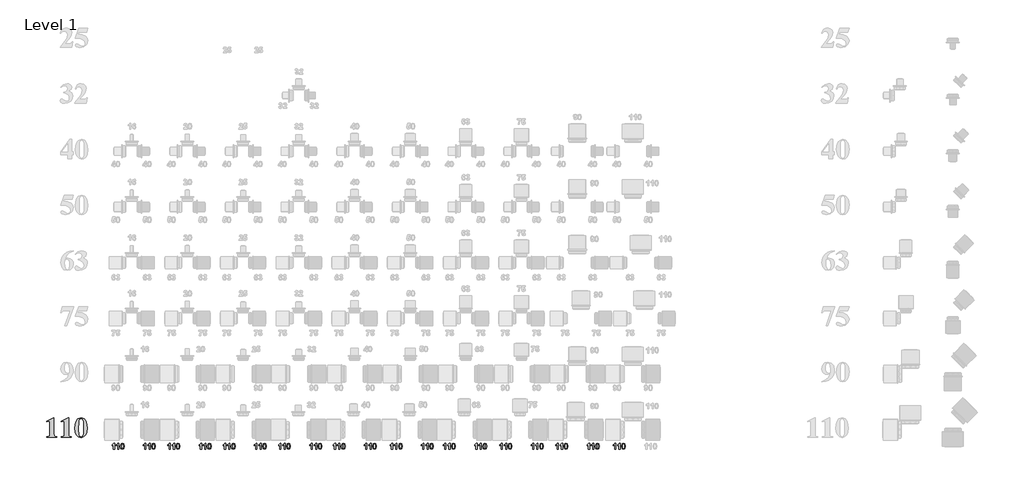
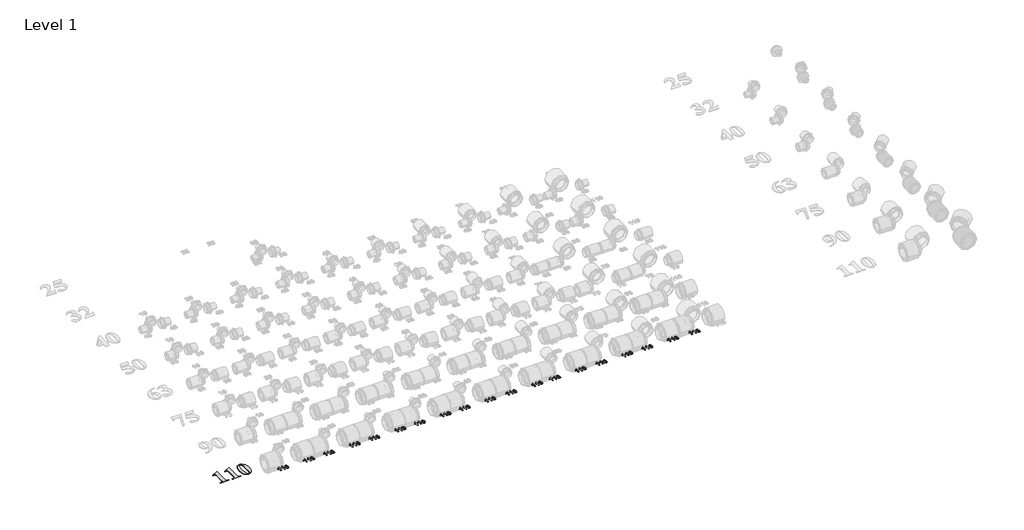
# One storey, part 17 of 57: 20 proxies.
"""IFC4 building model written with IfcOpenShell, lengths in millimetres."""

import ifcopenshell
import ifcopenshell.guid

model = None  # the IFC model being written
_history = None  # IfcOwnerHistory: only IFC2X3 demands one
_inside = {}  # id of a spatial element -> (the spatial element, [elements in it])
_under = {}  # id of a project, library or spatial element -> (it, [spatial elements below it])
_declared = {}  # id of a project -> (the project, [libraries it declares])
_typed = {}  # id of a type object -> (the type object, [elements of that type])
_made_of = {}  # id of a material, layer set ... -> (it, [elements and type objects made of it])


def new_model(schema):
    """Start an empty IFC model of exactly this schema.

    Asked for "IFC4X3", IfcOpenShell would pick the latest addendum, in which some entities
    have other attributes; the version numbers below select the first issue.
    IFC2X3 requires an IfcOwnerHistory on every rooted entity: one is made here for all.
    """
    global model, _history
    if schema == "IFC4X3":
        model = ifcopenshell.file(schema_version=(4, 3, 0, 0))
    else:
        model = ifcopenshell.file(schema=schema)
    _inside.clear()
    _under.clear()
    _declared.clear()
    _typed.clear()
    _made_of.clear()
    _history = None
    if model.schema == "IFC2X3":
        org = make("IfcOrganization", Name="unknown")
        user = make(
            "IfcPersonAndOrganization",
            ThePerson=make("IfcPerson", FamilyName="unknown"),
            TheOrganization=org,
        )
        app = make(
            "IfcApplication",
            ApplicationDeveloper=org,
            Version="unknown",
            ApplicationFullName="unknown",
            ApplicationIdentifier="unknown",
        )
        _history = make(
            "IfcOwnerHistory",
            OwningUser=user,
            OwningApplication=app,
            ChangeAction="ADDED",
            CreationDate=0,
        )
    return model


def make(cls, **values):
    """One entity of the class cls with the attributes given. An attribute that is None is left unset."""
    return model.create_entity(
        cls, **{name: value for name, value in values.items() if value is not None}
    )


def rooted(cls, **values):
    """An entity with a GlobalId (a new one), such as an element, a storey or a relation."""
    return make(cls, GlobalId=ifcopenshell.guid.new(), OwnerHistory=_history, **values)


def si_unit(unit_type, name, prefix=None):
    """IfcSIUnit, for example si_unit("LENGTHUNIT", "METRE", prefix="MILLI")."""
    return make("IfcSIUnit", UnitType=unit_type, Prefix=prefix, Name=name)


def assignment(units):
    """IfcUnitAssignment: the units of a project."""
    return None if units is None else make("IfcUnitAssignment", Units=units)


def point(xyz):
    """IfcCartesianPoint."""
    return None if xyz is None else make("IfcCartesianPoint", Coordinates=xyz)


def direction(xyz):
    """IfcDirection."""
    return None if xyz is None else make("IfcDirection", DirectionRatios=xyz)


def frame(location, z_axis=None, x_axis=None):
    """IfcAxis2Placement3D, a coordinate frame: its origin and axes. An axis left out is left unset."""
    return make(
        "IfcAxis2Placement3D",
        Location=point(location),
        Axis=direction(z_axis),
        RefDirection=direction(x_axis),
    )


def origin():
    """The frame at (0, 0, 0) with its axes left unset."""
    return frame((0.0, 0.0, 0.0))


def place(relative_to, where):
    """IfcLocalPlacement: puts the frame where relative to a parent placement (None: the world)."""
    return make(
        "IfcLocalPlacement", PlacementRelTo=relative_to, RelativePlacement=where
    )


def context(
    kind, dimensions, precision=None, world=None, true_north=None, identifier=None
):
    """IfcGeometricRepresentationContext, for example the 3D "Model" context."""
    return make(
        "IfcGeometricRepresentationContext",
        ContextIdentifier=identifier,
        ContextType=kind,
        CoordinateSpaceDimension=dimensions,
        Precision=precision,
        WorldCoordinateSystem=world,
        TrueNorth=true_north,
    )


def project(units=None, contexts=None):
    """IfcProject with its units and contexts."""
    return rooted(
        "IfcProject",
        Name="project",
        RepresentationContexts=contexts,
        UnitsInContext=assignment(units),
    )


def spatial(cls, under=None, at=None, **own):
    """A site, building, storey or space (cls), placed at a placement, below another one or the project."""
    s = rooted(cls, ObjectPlacement=at, **own)
    if under is not None:
        _under.setdefault(under.id(), (under, []))[1].append(s)
    return s


def polyline(points):
    """IfcPolyline through the points."""
    return make("IfcPolyline", Points=[point(p) for p in points])


def outline(outer, holes=None, kind="AREA"):
    """IfcArbitraryClosedProfileDef: a profile drawn as a closed curve; with holes, ...WithVoids."""
    if holes is None:
        return make("IfcArbitraryClosedProfileDef", ProfileType=kind, OuterCurve=outer)
    return make(
        "IfcArbitraryProfileDefWithVoids",
        ProfileType=kind,
        OuterCurve=outer,
        InnerCurves=holes,
    )


def extrude(swept, where, along, depth):
    """IfcExtrudedAreaSolid: the profile swept, set in the frame where, extruded along a direction by depth."""
    return make(
        "IfcExtrudedAreaSolid",
        SweptArea=swept,
        Position=where,
        ExtrudedDirection=direction(along),
        Depth=depth,
    )


def shape(context_of_items, identifier, shape_type, items):
    """IfcShapeRepresentation: the items that make up one representation, for example the "Body"."""
    return make(
        "IfcShapeRepresentation",
        ContextOfItems=context_of_items,
        RepresentationIdentifier=identifier,
        RepresentationType=shape_type,
        Items=items,
    )


def made_of(thing, what):
    """Note that an element or type object is made of a material, layer set ...; save() writes the relation."""
    if what is not None:
        _made_of.setdefault(what.id(), (what, []))[1].append(thing)
    return thing


def element(
    cls,
    number,
    at=None,
    inside=None,
    cuts=None,
    type_object=None,
    material=None,
    context=None,
    identifier="Body",
    shape_type=None,
    held_by="IfcProductDefinitionShape",
    body=None,
    shapes=None,
    **own,
):
    """One element of the class cls, such as IfcWall. Its Tag is "e" and its number.

    at: its placement. inside: the storey or other place that contains it. cuts: it is an
    opening in that element (IfcRelVoidsElement). A single representation is given by context,
    identifier, shape_type and body (its items); several are given by shapes. held_by: the class
    of the entity that holds the representations. save() writes the other relations.
    """
    e = rooted(cls, Tag="e%d" % number, ObjectPlacement=at, **own)
    if body is not None:
        shapes = [shape(context, identifier, shape_type, body)]
    if shapes is not None:
        e.Representation = make(held_by, Representations=shapes)
    if inside is not None:
        _inside.setdefault(inside.id(), (inside, []))[1].append(e)
    if cuts is not None:
        rooted(
            "IfcRelVoidsElement", RelatingBuildingElement=cuts, RelatedOpeningElement=e
        )
    if type_object is not None:
        _typed.setdefault(type_object.id(), (type_object, []))[1].append(e)
    return made_of(e, material)


def aggregate(whole, parts):
    """IfcRelAggregates: a whole, such as a stair, and the parts it consists of."""
    return rooted("IfcRelAggregates", RelatingObject=whole, RelatedObjects=parts)


def save(model, path):
    """Write the relations noted so far, then the file.

    IfcRelAggregates (storeys below a building ...), IfcRelContainedInSpatialStructure (elements
    in a storey), IfcRelDefinesByType, IfcRelAssociatesMaterial and IfcRelDeclares: one each for
    every whole, place, type object, material and project.
    """
    for whole, parts in _under.values():
        aggregate(whole, parts)
    for where, things in _inside.values():
        rooted(
            "IfcRelContainedInSpatialStructure",
            RelatedElements=things,
            RelatingStructure=where,
        )
    for kind, things in _typed.values():
        rooted("IfcRelDefinesByType", RelatedObjects=things, RelatingType=kind)
    for what, things in _made_of.values():
        rooted("IfcRelAssociatesMaterial", RelatedObjects=things, RelatingMaterial=what)
    for by, libraries in _declared.values():
        rooted("IfcRelDeclares", RelatingContext=by, RelatedDefinitions=libraries)
    model.write(path)


model = new_model("IFC4")

# Units and contexts
model_context = context("Model", 3, world=origin())
ifc_project = project(units=[si_unit("LENGTHUNIT", "METRE", prefix="MILLI")], contexts=[model_context])

# Site, building, storey
site = spatial("IfcSite", under=ifc_project)
building = spatial("IfcBuilding", under=site)
storey = spatial("IfcBuildingStorey", under=building, Name="Level 1", Elevation=27.3876384)

# Proxies
placement = place(None, origin())
element("IfcBuildingElementProxy", 1, Name="100mm Arial", ObjectType="100mm Arial", at=placement, inside=storey, context=model_context, shape_type="SweptSolid", body=[
    extrude(outline(polyline([(12847.0644959, 16010.8916255), (12847.0644959, 15927.1351635), (12847.9233268, 15915.4387044), (12851.5358695, 15911.2945045), (12860.3422944, 15909.6859006), (12862.7688325, 15909.6859006), (12862.7688325, 15906.196048), (12806.9311912, 15906.196048), (12806.9311912, 15909.6859006), (12809.7394319, 15909.6859006), (12819.4455844, 15911.1581821), (12823.3580363, 15915.1933242), (12824.3804541, 15927.1351635), (12824.3804541, 15979.4829522), (12823.7261067, 15988.1394225), (12821.2995686, 15991.1248823), (12817.2098976, 15992.3790481), (12808.2398859, 15989.95251), (12806.9311912, 15993.4423626), (12844.5834288, 16010.8916255), (12847.0644959, 16010.8916255)])), frame((0.0, 0.0, 27.3876384), z_axis=(0.0, 0.0, 1.0), x_axis=(1.0, 0.0, 0.0)), (0.0, 0.0, 1.0), 2.0),
    extrude(outline(polyline([(12925.586179, 16010.8916255), (12925.586179, 15927.1351635), (12926.4450099, 15915.4387044), (12930.0575526, 15911.2945045), (12938.8639775, 15909.6859006), (12941.2905157, 15909.6859006), (12941.2905157, 15906.196048), (12885.4528743, 15906.196048), (12885.4528743, 15909.6859006), (12888.2611151, 15909.6859006), (12897.9672676, 15911.1581821), (12901.8797195, 15915.1933242), (12902.9021372, 15927.1351635), (12902.9021372, 15979.4829522), (12902.2477899, 15988.1394225), (12899.8212517, 15991.1248823), (12895.7315807, 15992.3790481), (12886.761569, 15989.95251), (12885.4528743, 15993.4423626), (12923.105112, 16010.8916255), (12925.586179, 16010.8916255)])), frame((0.0, 0.0, 27.3876384), z_axis=(0.0, 0.0, 1.0), x_axis=(1.0, 0.0, 0.0)), (0.0, 0.0, 1.0), 2.0),
    extrude(outline(polyline([(13026.791904, 15957.6713736), (13022.3477948, 15929.0982056), (13015.2317673, 15915.7658781), (13005.0893832, 15907.5047427), (12992.7385768, 15904.4511217), (12978.9563855, 15908.213619), (12968.0642284, 15919.0103504), (12962.0933088, 15932.6425871), (12958.7397786, 15956.4717368), (12963.5655903, 15987.0624758), (12968.554989, 15997.2491647), (12975.6164876, 16004.7434868), (12992.7385768, 16010.8916255), (13009.8742983, 16004.8252802), (13021.5843896, 15988.5074929), (13026.791904, 15957.6713736)]), holes=[polyline([(13004.1078622, 15957.6713736), (13003.753424, 15989.0255179), (12999.6364885, 16003.2303085), (12992.6840478, 16005.6568466), (12986.8494506, 16003.8301269), (12982.5416638, 15994.505677), (12981.4238204, 15947.8561632), (12983.1414822, 15918.6831767), (12986.8358183, 15911.498988), (12993.2020728, 15909.6859006), (12999.6364885, 15912.1124387), (13003.753424, 15925.1721214), (13004.1078622, 15957.6713736)])]), frame((0.0, 0.0, 27.3876384), z_axis=(0.0, 0.0, 1.0), x_axis=(1.0, 0.0, 0.0)), (0.0, 0.0, 1.0), 2.0),
])
element("IfcBuildingElementProxy", 2, Name="30mm Arial", ObjectType="30mm Arial", at=placement, inside=storey, context=model_context, shape_type="SweptSolid", body=[
    extrude(outline(polyline([(13173.1703597, 15842.5788539), (13167.340306, 15842.5788539), (13167.340306, 15864.4567378), (13160.0527389, 15859.5831773), (13160.0527389, 15865.413231), (13164.9187082, 15868.2713237), (13168.5245357, 15873.1866359), (13173.1703597, 15873.1866359), (13173.1703597, 15842.5788539)])), frame((0.0, 0.0, 27.3876384), z_axis=(0.0, 0.0, 1.0), x_axis=(1.0, 0.0, 0.0)), (0.0, 0.0, 1.0), 2.0),
    extrude(outline(polyline([(13196.4905746, 15842.5788539), (13190.6605209, 15842.5788539), (13190.6605209, 15864.4567378), (13183.3729537, 15859.5831773), (13183.3729537, 15865.413231), (13188.238923, 15868.2713237), (13191.8447505, 15873.1866359), (13196.4905746, 15873.1866359), (13196.4905746, 15842.5788539)])), frame((0.0, 0.0, 27.3876384), z_axis=(0.0, 0.0, 1.0), x_axis=(1.0, 0.0, 0.0)), (0.0, 0.0, 1.0), 2.0),
    extrude(outline(polyline([(13214.9524113, 15873.1866359), (13221.7465495, 15870.0286902), (13224.6691675, 15857.6322348), (13221.731367, 15845.2054146), (13214.9524113, 15842.0930161), (13207.9115587, 15845.5090632), (13205.2356552, 15857.6929645), (13208.1734557, 15870.0742375), (13214.9524113, 15873.1866359)]), holes=[polyline([(13214.9524113, 15867.84242), (13213.0090601, 15867.2009623), (13211.6881886, 15864.8970283), (13211.0657089, 15857.6322348), (13211.6198676, 15850.6141558), (13213.0204469, 15848.0710985), (13214.9524113, 15847.437232), (13216.8957626, 15848.0786898), (13218.2166341, 15850.3826237), (13218.8391138, 15857.6322348), (13218.2849551, 15864.6465182), (13216.8843758, 15867.2009623), (13214.9524113, 15867.84242)])]), frame((0.0, 0.0, 27.3876384), z_axis=(0.0, 0.0, 1.0), x_axis=(1.0, 0.0, 0.0)), (0.0, 0.0, 1.0), 2.0),
])
element("IfcBuildingElementProxy", 3, Name="30mm Arial", ObjectType="30mm Arial", at=placement, inside=storey, context=model_context, shape_type="SweptSolid", body=[
    extrude(outline(polyline([(13341.9203597, 15842.5788539), (13336.090306, 15842.5788539), (13336.090306, 15864.4567378), (13328.8027389, 15859.5831773), (13328.8027389, 15865.413231), (13333.6687082, 15868.2713237), (13337.2745357, 15873.1866359), (13341.9203597, 15873.1866359), (13341.9203597, 15842.5788539)])), frame((0.0, 0.0, 27.3876384), z_axis=(0.0, 0.0, 1.0), x_axis=(1.0, 0.0, 0.0)), (0.0, 0.0, 1.0), 2.0),
    extrude(outline(polyline([(13365.2405746, 15842.5788539), (13359.4105209, 15842.5788539), (13359.4105209, 15864.4567378), (13352.1229537, 15859.5831773), (13352.1229537, 15865.413231), (13356.988923, 15868.2713237), (13360.5947505, 15873.1866359), (13365.2405746, 15873.1866359), (13365.2405746, 15842.5788539)])), frame((0.0, 0.0, 27.3876384), z_axis=(0.0, 0.0, 1.0), x_axis=(1.0, 0.0, 0.0)), (0.0, 0.0, 1.0), 2.0),
    extrude(outline(polyline([(13383.7024113, 15873.1866359), (13390.4965495, 15870.0286902), (13393.4191675, 15857.6322348), (13390.481367, 15845.2054146), (13383.7024113, 15842.0930161), (13376.6615587, 15845.5090632), (13373.9856552, 15857.6929645), (13376.9234557, 15870.0742375), (13383.7024113, 15873.1866359)]), holes=[polyline([(13383.7024113, 15867.84242), (13381.7590601, 15867.2009623), (13380.4381886, 15864.8970283), (13379.8157089, 15857.6322348), (13380.3698676, 15850.6141558), (13381.7704469, 15848.0710985), (13383.7024113, 15847.437232), (13385.6457626, 15848.0786898), (13386.9666341, 15850.3826237), (13387.5891138, 15857.6322348), (13387.0349551, 15864.6465182), (13385.6343758, 15867.2009623), (13383.7024113, 15867.84242)])]), frame((0.0, 0.0, 27.3876384), z_axis=(0.0, 0.0, 1.0), x_axis=(1.0, 0.0, 0.0)), (0.0, 0.0, 1.0), 2.0),
])
element("IfcBuildingElementProxy", 4, Name="30mm Arial", ObjectType="30mm Arial", at=placement, inside=storey, context=model_context, shape_type="SweptSolid", body=[
    extrude(outline(polyline([(13473.1703597, 15842.5788539), (13467.340306, 15842.5788539), (13467.340306, 15864.4567378), (13460.0527389, 15859.5831773), (13460.0527389, 15865.413231), (13464.9187082, 15868.2713237), (13468.5245357, 15873.1866359), (13473.1703597, 15873.1866359), (13473.1703597, 15842.5788539)])), frame((0.0, 0.0, 27.3876384), z_axis=(0.0, 0.0, 1.0), x_axis=(1.0, 0.0, 0.0)), (0.0, 0.0, 1.0), 2.0),
    extrude(outline(polyline([(13496.4905746, 15842.5788539), (13490.6605209, 15842.5788539), (13490.6605209, 15864.4567378), (13483.3729537, 15859.5831773), (13483.3729537, 15865.413231), (13488.238923, 15868.2713237), (13491.8447505, 15873.1866359), (13496.4905746, 15873.1866359), (13496.4905746, 15842.5788539)])), frame((0.0, 0.0, 27.3876384), z_axis=(0.0, 0.0, 1.0), x_axis=(1.0, 0.0, 0.0)), (0.0, 0.0, 1.0), 2.0),
    extrude(outline(polyline([(13514.9524113, 15873.1866359), (13521.7465495, 15870.0286902), (13524.6691675, 15857.6322348), (13521.731367, 15845.2054146), (13514.9524113, 15842.0930161), (13507.9115587, 15845.5090632), (13505.2356552, 15857.6929645), (13508.1734557, 15870.0742375), (13514.9524113, 15873.1866359)]), holes=[polyline([(13514.9524113, 15867.84242), (13513.0090601, 15867.2009623), (13511.6881886, 15864.8970283), (13511.0657089, 15857.6322348), (13511.6198676, 15850.6141558), (13513.0204469, 15848.0710985), (13514.9524113, 15847.437232), (13516.8957626, 15848.0786898), (13518.2166341, 15850.3826237), (13518.8391138, 15857.6322348), (13518.2849551, 15864.6465182), (13516.8843758, 15867.2009623), (13514.9524113, 15867.84242)])]), frame((0.0, 0.0, 27.3876384), z_axis=(0.0, 0.0, 1.0), x_axis=(1.0, 0.0, 0.0)), (0.0, 0.0, 1.0), 2.0),
])
element("IfcBuildingElementProxy", 5, Name="30mm Arial", ObjectType="30mm Arial", at=placement, inside=storey, context=model_context, shape_type="SweptSolid", body=[
    extrude(outline(polyline([(13641.9203597, 15842.5788539), (13636.090306, 15842.5788539), (13636.090306, 15864.4567378), (13628.8027389, 15859.5831773), (13628.8027389, 15865.413231), (13633.6687082, 15868.2713237), (13637.2745357, 15873.1866359), (13641.9203597, 15873.1866359), (13641.9203597, 15842.5788539)])), frame((0.0, 0.0, 27.3876384), z_axis=(0.0, 0.0, 1.0), x_axis=(1.0, 0.0, 0.0)), (0.0, 0.0, 1.0), 2.0),
    extrude(outline(polyline([(13665.2405746, 15842.5788539), (13659.4105209, 15842.5788539), (13659.4105209, 15864.4567378), (13652.1229537, 15859.5831773), (13652.1229537, 15865.413231), (13656.988923, 15868.2713237), (13660.5947505, 15873.1866359), (13665.2405746, 15873.1866359), (13665.2405746, 15842.5788539)])), frame((0.0, 0.0, 27.3876384), z_axis=(0.0, 0.0, 1.0), x_axis=(1.0, 0.0, 0.0)), (0.0, 0.0, 1.0), 2.0),
    extrude(outline(polyline([(13683.7024113, 15873.1866359), (13690.4965495, 15870.0286902), (13693.4191675, 15857.6322348), (13690.481367, 15845.2054146), (13683.7024113, 15842.0930161), (13676.6615587, 15845.5090632), (13673.9856552, 15857.6929645), (13676.9234557, 15870.0742375), (13683.7024113, 15873.1866359)]), holes=[polyline([(13683.7024113, 15867.84242), (13681.7590601, 15867.2009623), (13680.4381886, 15864.8970283), (13679.8157089, 15857.6322348), (13680.3698676, 15850.6141558), (13681.7704469, 15848.0710985), (13683.7024113, 15847.437232), (13685.6457626, 15848.0786898), (13686.9666341, 15850.3826237), (13687.5891138, 15857.6322348), (13687.0349551, 15864.6465182), (13685.6343758, 15867.2009623), (13683.7024113, 15867.84242)])]), frame((0.0, 0.0, 27.3876384), z_axis=(0.0, 0.0, 1.0), x_axis=(1.0, 0.0, 0.0)), (0.0, 0.0, 1.0), 2.0),
])
element("IfcBuildingElementProxy", 6, Name="30mm Arial", ObjectType="30mm Arial", at=placement, inside=storey, context=model_context, shape_type="SweptSolid", body=[
    extrude(outline(polyline([(13771.1703597, 15842.5788539), (13765.340306, 15842.5788539), (13765.340306, 15864.4567378), (13758.0527389, 15859.5831773), (13758.0527389, 15865.413231), (13762.9187082, 15868.2713237), (13766.5245357, 15873.1866359), (13771.1703597, 15873.1866359), (13771.1703597, 15842.5788539)])), frame((0.0, 0.0, 27.3876384), z_axis=(0.0, 0.0, 1.0), x_axis=(1.0, 0.0, 0.0)), (0.0, 0.0, 1.0), 2.0),
    extrude(outline(polyline([(13794.4905746, 15842.5788539), (13788.6605209, 15842.5788539), (13788.6605209, 15864.4567378), (13781.3729537, 15859.5831773), (13781.3729537, 15865.413231), (13786.238923, 15868.2713237), (13789.8447505, 15873.1866359), (13794.4905746, 15873.1866359), (13794.4905746, 15842.5788539)])), frame((0.0, 0.0, 27.3876384), z_axis=(0.0, 0.0, 1.0), x_axis=(1.0, 0.0, 0.0)), (0.0, 0.0, 1.0), 2.0),
    extrude(outline(polyline([(13812.9524113, 15873.1866359), (13819.7465495, 15870.0286902), (13822.6691675, 15857.6322348), (13819.731367, 15845.2054146), (13812.9524113, 15842.0930161), (13805.9115587, 15845.5090632), (13803.2356552, 15857.6929645), (13806.1734557, 15870.0742375), (13812.9524113, 15873.1866359)]), holes=[polyline([(13812.9524113, 15867.84242), (13811.0090601, 15867.2009623), (13809.6881886, 15864.8970283), (13809.0657089, 15857.6322348), (13809.6198676, 15850.6141558), (13811.0204469, 15848.0710985), (13812.9524113, 15847.437232), (13814.8957626, 15848.0786898), (13816.2166341, 15850.3826237), (13816.8391138, 15857.6322348), (13816.2849551, 15864.6465182), (13814.8843758, 15867.2009623), (13812.9524113, 15867.84242)])]), frame((0.0, 0.0, 27.3876384), z_axis=(0.0, 0.0, 1.0), x_axis=(1.0, 0.0, 0.0)), (0.0, 0.0, 1.0), 2.0),
])
element("IfcBuildingElementProxy", 7, Name="30mm Arial", ObjectType="30mm Arial", at=placement, inside=storey, context=model_context, shape_type="SweptSolid", body=[
    extrude(outline(polyline([(13939.9203597, 15842.5788539), (13934.090306, 15842.5788539), (13934.090306, 15864.4567378), (13926.8027389, 15859.5831773), (13926.8027389, 15865.413231), (13931.6687082, 15868.2713237), (13935.2745357, 15873.1866359), (13939.9203597, 15873.1866359), (13939.9203597, 15842.5788539)])), frame((0.0, 0.0, 27.3876384), z_axis=(0.0, 0.0, 1.0), x_axis=(1.0, 0.0, 0.0)), (0.0, 0.0, 1.0), 2.0),
    extrude(outline(polyline([(13963.2405746, 15842.5788539), (13957.4105209, 15842.5788539), (13957.4105209, 15864.4567378), (13950.1229537, 15859.5831773), (13950.1229537, 15865.413231), (13954.988923, 15868.2713237), (13958.5947505, 15873.1866359), (13963.2405746, 15873.1866359), (13963.2405746, 15842.5788539)])), frame((0.0, 0.0, 27.3876384), z_axis=(0.0, 0.0, 1.0), x_axis=(1.0, 0.0, 0.0)), (0.0, 0.0, 1.0), 2.0),
    extrude(outline(polyline([(13981.7024113, 15873.1866359), (13988.4965495, 15870.0286902), (13991.4191675, 15857.6322348), (13988.481367, 15845.2054146), (13981.7024113, 15842.0930161), (13974.6615587, 15845.5090632), (13971.9856552, 15857.6929645), (13974.9234557, 15870.0742375), (13981.7024113, 15873.1866359)]), holes=[polyline([(13981.7024113, 15867.84242), (13979.7590601, 15867.2009623), (13978.4381886, 15864.8970283), (13977.8157089, 15857.6322348), (13978.3698676, 15850.6141558), (13979.7704469, 15848.0710985), (13981.7024113, 15847.437232), (13983.6457626, 15848.0786898), (13984.9666341, 15850.3826237), (13985.5891138, 15857.6322348), (13985.0349551, 15864.6465182), (13983.6343758, 15867.2009623), (13981.7024113, 15867.84242)])]), frame((0.0, 0.0, 27.3876384), z_axis=(0.0, 0.0, 1.0), x_axis=(1.0, 0.0, 0.0)), (0.0, 0.0, 1.0), 2.0),
])
element("IfcBuildingElementProxy", 8, Name="30mm Arial", ObjectType="30mm Arial", at=placement, inside=storey, context=model_context, shape_type="SweptSolid", body=[
    extrude(outline(polyline([(15563.1703597, 15842.5788539), (15557.340306, 15842.5788539), (15557.340306, 15864.4567378), (15550.0527389, 15859.5831773), (15550.0527389, 15865.413231), (15554.9187082, 15868.2713237), (15558.5245357, 15873.1866359), (15563.1703597, 15873.1866359), (15563.1703597, 15842.5788539)])), frame((0.0, 0.0, 27.3876384), z_axis=(0.0, 0.0, 1.0), x_axis=(1.0, 0.0, 0.0)), (0.0, 0.0, 1.0), 2.0),
    extrude(outline(polyline([(15586.4905746, 15842.5788539), (15580.6605209, 15842.5788539), (15580.6605209, 15864.4567378), (15573.3729537, 15859.5831773), (15573.3729537, 15865.413231), (15578.238923, 15868.2713237), (15581.8447505, 15873.1866359), (15586.4905746, 15873.1866359), (15586.4905746, 15842.5788539)])), frame((0.0, 0.0, 27.3876384), z_axis=(0.0, 0.0, 1.0), x_axis=(1.0, 0.0, 0.0)), (0.0, 0.0, 1.0), 2.0),
    extrude(outline(polyline([(15604.9524113, 15873.1866359), (15611.7465495, 15870.0286902), (15614.6691675, 15857.6322348), (15611.731367, 15845.2054146), (15604.9524113, 15842.0930161), (15597.9115587, 15845.5090632), (15595.2356552, 15857.6929645), (15598.1734557, 15870.0742375), (15604.9524113, 15873.1866359)]), holes=[polyline([(15604.9524113, 15867.84242), (15603.0090601, 15867.2009623), (15601.6881886, 15864.8970283), (15601.0657089, 15857.6322348), (15601.6198676, 15850.6141558), (15603.0204469, 15848.0710985), (15604.9524113, 15847.437232), (15606.8957626, 15848.0786898), (15608.2166341, 15850.3826237), (15608.8391138, 15857.6322348), (15608.2849551, 15864.6465182), (15606.8843758, 15867.2009623), (15604.9524113, 15867.84242)])]), frame((0.0, 0.0, 27.3876384), z_axis=(0.0, 0.0, 1.0), x_axis=(1.0, 0.0, 0.0)), (0.0, 0.0, 1.0), 2.0),
])
element("IfcBuildingElementProxy", 9, Name="30mm Arial", ObjectType="30mm Arial", at=placement, inside=storey, context=model_context, shape_type="SweptSolid", body=[
    extrude(outline(polyline([(15731.9203597, 15842.5788539), (15726.090306, 15842.5788539), (15726.090306, 15864.4567378), (15718.8027389, 15859.5831773), (15718.8027389, 15865.413231), (15723.6687082, 15868.2713237), (15727.2745357, 15873.1866359), (15731.9203597, 15873.1866359), (15731.9203597, 15842.5788539)])), frame((0.0, 0.0, 27.3876384), z_axis=(0.0, 0.0, 1.0), x_axis=(1.0, 0.0, 0.0)), (0.0, 0.0, 1.0), 2.0),
    extrude(outline(polyline([(15755.2405746, 15842.5788539), (15749.4105209, 15842.5788539), (15749.4105209, 15864.4567378), (15742.1229537, 15859.5831773), (15742.1229537, 15865.413231), (15746.988923, 15868.2713237), (15750.5947505, 15873.1866359), (15755.2405746, 15873.1866359), (15755.2405746, 15842.5788539)])), frame((0.0, 0.0, 27.3876384), z_axis=(0.0, 0.0, 1.0), x_axis=(1.0, 0.0, 0.0)), (0.0, 0.0, 1.0), 2.0),
    extrude(outline(polyline([(15773.7024113, 15873.1866359), (15780.4965495, 15870.0286902), (15783.4191675, 15857.6322348), (15780.481367, 15845.2054146), (15773.7024113, 15842.0930161), (15766.6615587, 15845.5090632), (15763.9856552, 15857.6929645), (15766.9234557, 15870.0742375), (15773.7024113, 15873.1866359)]), holes=[polyline([(15773.7024113, 15867.84242), (15771.7590601, 15867.2009623), (15770.4381886, 15864.8970283), (15769.8157089, 15857.6322348), (15770.3698676, 15850.6141558), (15771.7704469, 15848.0710985), (15773.7024113, 15847.437232), (15775.6457626, 15848.0786898), (15776.9666341, 15850.3826237), (15777.5891138, 15857.6322348), (15777.0349551, 15864.6465182), (15775.6343758, 15867.2009623), (15773.7024113, 15867.84242)])]), frame((0.0, 0.0, 27.3876384), z_axis=(0.0, 0.0, 1.0), x_axis=(1.0, 0.0, 0.0)), (0.0, 0.0, 1.0), 2.0),
])
element("IfcBuildingElementProxy", 10, Name="30mm Arial", ObjectType="30mm Arial", at=placement, inside=storey, context=model_context, shape_type="SweptSolid", body=[
    extrude(outline(polyline([(15873.1703597, 15842.5788539), (15867.340306, 15842.5788539), (15867.340306, 15864.4567378), (15860.0527389, 15859.5831773), (15860.0527389, 15865.413231), (15864.9187082, 15868.2713237), (15868.5245357, 15873.1866359), (15873.1703597, 15873.1866359), (15873.1703597, 15842.5788539)])), frame((0.0, 0.0, 27.3876384), z_axis=(0.0, 0.0, 1.0), x_axis=(1.0, 0.0, 0.0)), (0.0, 0.0, 1.0), 2.0),
    extrude(outline(polyline([(15896.4905746, 15842.5788539), (15890.6605209, 15842.5788539), (15890.6605209, 15864.4567378), (15883.3729537, 15859.5831773), (15883.3729537, 15865.413231), (15888.238923, 15868.2713237), (15891.8447505, 15873.1866359), (15896.4905746, 15873.1866359), (15896.4905746, 15842.5788539)])), frame((0.0, 0.0, 27.3876384), z_axis=(0.0, 0.0, 1.0), x_axis=(1.0, 0.0, 0.0)), (0.0, 0.0, 1.0), 2.0),
    extrude(outline(polyline([(15914.9524113, 15873.1866359), (15921.7465495, 15870.0286902), (15924.6691675, 15857.6322348), (15921.731367, 15845.2054146), (15914.9524113, 15842.0930161), (15907.9115587, 15845.5090632), (15905.2356552, 15857.6929645), (15908.1734557, 15870.0742375), (15914.9524113, 15873.1866359)]), holes=[polyline([(15914.9524113, 15867.84242), (15913.0090601, 15867.2009623), (15911.6881886, 15864.8970283), (15911.0657089, 15857.6322348), (15911.6198676, 15850.6141558), (15913.0204469, 15848.0710985), (15914.9524113, 15847.437232), (15916.8957626, 15848.0786898), (15918.2166341, 15850.3826237), (15918.8391138, 15857.6322348), (15918.2849551, 15864.6465182), (15916.8843758, 15867.2009623), (15914.9524113, 15867.84242)])]), frame((0.0, 0.0, 27.3876384), z_axis=(0.0, 0.0, 1.0), x_axis=(1.0, 0.0, 0.0)), (0.0, 0.0, 1.0), 2.0),
])
element("IfcBuildingElementProxy", 11, Name="30mm Arial", ObjectType="30mm Arial", at=placement, inside=storey, context=model_context, shape_type="SweptSolid", body=[
    extrude(outline(polyline([(14069.6017169, 15842.5788539), (14063.7716631, 15842.5788539), (14063.7716631, 15864.4567378), (14056.484096, 15859.5831773), (14056.484096, 15865.413231), (14061.3500653, 15868.2713237), (14064.9558928, 15873.1866359), (14069.6017169, 15873.1866359), (14069.6017169, 15842.5788539)])), frame((0.0, 0.0, 27.3876384), z_axis=(0.0, 0.0, 1.0), x_axis=(1.0, 0.0, 0.0)), (0.0, 0.0, 1.0), 2.0),
    extrude(outline(polyline([(14092.9219317, 15842.5788539), (14087.091878, 15842.5788539), (14087.091878, 15864.4567378), (14079.8043109, 15859.5831773), (14079.8043109, 15865.413231), (14084.6702802, 15868.2713237), (14088.2761077, 15873.1866359), (14092.9219317, 15873.1866359), (14092.9219317, 15842.5788539)])), frame((0.0, 0.0, 27.3876384), z_axis=(0.0, 0.0, 1.0), x_axis=(1.0, 0.0, 0.0)), (0.0, 0.0, 1.0), 2.0),
    extrude(outline(polyline([(14111.3837685, 15873.1866359), (14118.1779066, 15870.0286902), (14121.1005247, 15857.6322348), (14118.1627242, 15845.2054146), (14111.3837685, 15842.0930161), (14104.3429158, 15845.5090632), (14101.6670123, 15857.6929645), (14104.6048128, 15870.0742375), (14111.3837685, 15873.1866359)]), holes=[polyline([(14111.3837685, 15867.84242), (14109.4404172, 15867.2009623), (14108.1195457, 15864.8970283), (14107.497066, 15857.6322348), (14108.0512248, 15850.6141558), (14109.4518041, 15848.0710985), (14111.3837685, 15847.437232), (14113.3271197, 15848.0786898), (14114.6479913, 15850.3826237), (14115.270471, 15857.6322348), (14114.7163122, 15864.6465182), (14113.3157329, 15867.2009623), (14111.3837685, 15867.84242)])]), frame((0.0, 0.0, 27.3876384), z_axis=(0.0, 0.0, 1.0), x_axis=(1.0, 0.0, 0.0)), (0.0, 0.0, 1.0), 2.0),
])
element("IfcBuildingElementProxy", 12, Name="30mm Arial", ObjectType="30mm Arial", at=placement, inside=storey, context=model_context, shape_type="SweptSolid", body=[
    extrude(outline(polyline([(14238.3517169, 15842.5788539), (14232.5216631, 15842.5788539), (14232.5216631, 15864.4567378), (14225.234096, 15859.5831773), (14225.234096, 15865.413231), (14230.1000653, 15868.2713237), (14233.7058928, 15873.1866359), (14238.3517169, 15873.1866359), (14238.3517169, 15842.5788539)])), frame((0.0, 0.0, 27.3876384), z_axis=(0.0, 0.0, 1.0), x_axis=(1.0, 0.0, 0.0)), (0.0, 0.0, 1.0), 2.0),
    extrude(outline(polyline([(14261.6719317, 15842.5788539), (14255.841878, 15842.5788539), (14255.841878, 15864.4567378), (14248.5543109, 15859.5831773), (14248.5543109, 15865.413231), (14253.4202802, 15868.2713237), (14257.0261077, 15873.1866359), (14261.6719317, 15873.1866359), (14261.6719317, 15842.5788539)])), frame((0.0, 0.0, 27.3876384), z_axis=(0.0, 0.0, 1.0), x_axis=(1.0, 0.0, 0.0)), (0.0, 0.0, 1.0), 2.0),
    extrude(outline(polyline([(14280.1337685, 15873.1866359), (14286.9279066, 15870.0286902), (14289.8505247, 15857.6322348), (14286.9127242, 15845.2054146), (14280.1337685, 15842.0930161), (14273.0929158, 15845.5090632), (14270.4170123, 15857.6929645), (14273.3548128, 15870.0742375), (14280.1337685, 15873.1866359)]), holes=[polyline([(14280.1337685, 15867.84242), (14278.1904172, 15867.2009623), (14276.8695457, 15864.8970283), (14276.247066, 15857.6322348), (14276.8012248, 15850.6141558), (14278.2018041, 15848.0710985), (14280.1337685, 15847.437232), (14282.0771197, 15848.0786898), (14283.3979913, 15850.3826237), (14284.020471, 15857.6322348), (14283.4663122, 15864.6465182), (14282.0657329, 15867.2009623), (14280.1337685, 15867.84242)])]), frame((0.0, 0.0, 27.3876384), z_axis=(0.0, 0.0, 1.0), x_axis=(1.0, 0.0, 0.0)), (0.0, 0.0, 1.0), 2.0),
])
element("IfcBuildingElementProxy", 13, Name="30mm Arial", ObjectType="30mm Arial", at=placement, inside=storey, context=model_context, shape_type="SweptSolid", body=[
    extrude(outline(polyline([(14363.5788746, 15842.5788539), (14357.7488209, 15842.5788539), (14357.7488209, 15864.4567378), (14350.4612538, 15859.5831773), (14350.4612538, 15865.413231), (14355.3272231, 15868.2713237), (14358.9330506, 15873.1866359), (14363.5788746, 15873.1866359), (14363.5788746, 15842.5788539)])), frame((0.0, 0.0, 27.3876384), z_axis=(0.0, 0.0, 1.0), x_axis=(1.0, 0.0, 0.0)), (0.0, 0.0, 1.0), 2.0),
    extrude(outline(polyline([(14386.8990895, 15842.5788539), (14381.0690358, 15842.5788539), (14381.0690358, 15864.4567378), (14373.7814686, 15859.5831773), (14373.7814686, 15865.413231), (14378.6474379, 15868.2713237), (14382.2532654, 15873.1866359), (14386.8990895, 15873.1866359), (14386.8990895, 15842.5788539)])), frame((0.0, 0.0, 27.3876384), z_axis=(0.0, 0.0, 1.0), x_axis=(1.0, 0.0, 0.0)), (0.0, 0.0, 1.0), 2.0),
    extrude(outline(polyline([(14405.3609262, 15873.1866359), (14412.1550644, 15870.0286902), (14415.0776824, 15857.6322348), (14412.1398819, 15845.2054146), (14405.3609262, 15842.0930161), (14398.3200736, 15845.5090632), (14395.6441701, 15857.6929645), (14398.5819706, 15870.0742375), (14405.3609262, 15873.1866359)]), holes=[polyline([(14405.3609262, 15867.84242), (14403.417575, 15867.2009623), (14402.0967035, 15864.8970283), (14401.4742238, 15857.6322348), (14402.0283825, 15850.6141558), (14403.4289618, 15848.0710985), (14405.3609262, 15847.437232), (14407.3042775, 15848.0786898), (14408.625149, 15850.3826237), (14409.2476287, 15857.6322348), (14408.69347, 15864.6465182), (14407.2928907, 15867.2009623), (14405.3609262, 15867.84242)])]), frame((0.0, 0.0, 27.3876384), z_axis=(0.0, 0.0, 1.0), x_axis=(1.0, 0.0, 0.0)), (0.0, 0.0, 1.0), 2.0),
])
element("IfcBuildingElementProxy", 14, Name="30mm Arial", ObjectType="30mm Arial", at=placement, inside=storey, context=model_context, shape_type="SweptSolid", body=[
    extrude(outline(polyline([(14532.3288746, 15842.5788539), (14526.4988209, 15842.5788539), (14526.4988209, 15864.4567378), (14519.2112538, 15859.5831773), (14519.2112538, 15865.413231), (14524.0772231, 15868.2713237), (14527.6830506, 15873.1866359), (14532.3288746, 15873.1866359), (14532.3288746, 15842.5788539)])), frame((0.0, 0.0, 27.3876384), z_axis=(0.0, 0.0, 1.0), x_axis=(1.0, 0.0, 0.0)), (0.0, 0.0, 1.0), 2.0),
    extrude(outline(polyline([(14555.6490895, 15842.5788539), (14549.8190358, 15842.5788539), (14549.8190358, 15864.4567378), (14542.5314686, 15859.5831773), (14542.5314686, 15865.413231), (14547.3974379, 15868.2713237), (14551.0032654, 15873.1866359), (14555.6490895, 15873.1866359), (14555.6490895, 15842.5788539)])), frame((0.0, 0.0, 27.3876384), z_axis=(0.0, 0.0, 1.0), x_axis=(1.0, 0.0, 0.0)), (0.0, 0.0, 1.0), 2.0),
    extrude(outline(polyline([(14574.1109262, 15873.1866359), (14580.9050644, 15870.0286902), (14583.8276824, 15857.6322348), (14580.8898819, 15845.2054146), (14574.1109262, 15842.0930161), (14567.0700736, 15845.5090632), (14564.3941701, 15857.6929645), (14567.3319706, 15870.0742375), (14574.1109262, 15873.1866359)]), holes=[polyline([(14574.1109262, 15867.84242), (14572.167575, 15867.2009623), (14570.8467035, 15864.8970283), (14570.2242238, 15857.6322348), (14570.7783825, 15850.6141558), (14572.1789618, 15848.0710985), (14574.1109262, 15847.437232), (14576.0542775, 15848.0786898), (14577.375149, 15850.3826237), (14577.9976287, 15857.6322348), (14577.44347, 15864.6465182), (14576.0428907, 15867.2009623), (14574.1109262, 15867.84242)])]), frame((0.0, 0.0, 27.3876384), z_axis=(0.0, 0.0, 1.0), x_axis=(1.0, 0.0, 0.0)), (0.0, 0.0, 1.0), 2.0),
])
element("IfcBuildingElementProxy", 15, Name="30mm Arial", ObjectType="30mm Arial", at=placement, inside=storey, context=model_context, shape_type="SweptSolid", body=[
    extrude(outline(polyline([(14670.9186305, 15842.5788539), (14665.0885768, 15842.5788539), (14665.0885768, 15864.4567378), (14657.8010096, 15859.5831773), (14657.8010096, 15865.413231), (14662.6669789, 15868.2713237), (14666.2728064, 15873.1866359), (14670.9186305, 15873.1866359), (14670.9186305, 15842.5788539)])), frame((0.0, 0.0, 27.3876384), z_axis=(0.0, 0.0, 1.0), x_axis=(1.0, 0.0, 0.0)), (0.0, 0.0, 1.0), 2.0),
    extrude(outline(polyline([(14694.2388453, 15842.5788539), (14688.4087916, 15842.5788539), (14688.4087916, 15864.4567378), (14681.1212245, 15859.5831773), (14681.1212245, 15865.413231), (14685.9871938, 15868.2713237), (14689.5930213, 15873.1866359), (14694.2388453, 15873.1866359), (14694.2388453, 15842.5788539)])), frame((0.0, 0.0, 27.3876384), z_axis=(0.0, 0.0, 1.0), x_axis=(1.0, 0.0, 0.0)), (0.0, 0.0, 1.0), 2.0),
    extrude(outline(polyline([(14712.7006821, 15873.1866359), (14719.4948202, 15870.0286902), (14722.4174383, 15857.6322348), (14719.4796378, 15845.2054146), (14712.7006821, 15842.0930161), (14705.6598295, 15845.5090632), (14702.9839259, 15857.6929645), (14705.9217264, 15870.0742375), (14712.7006821, 15873.1866359)]), holes=[polyline([(14712.7006821, 15867.84242), (14710.7573309, 15867.2009623), (14709.4364593, 15864.8970283), (14708.8139796, 15857.6322348), (14709.3681384, 15850.6141558), (14710.7687177, 15848.0710985), (14712.7006821, 15847.437232), (14714.6440333, 15848.0786898), (14715.9649049, 15850.3826237), (14716.5873846, 15857.6322348), (14716.0332258, 15864.6465182), (14714.6326465, 15867.2009623), (14712.7006821, 15867.84242)])]), frame((0.0, 0.0, 27.3876384), z_axis=(0.0, 0.0, 1.0), x_axis=(1.0, 0.0, 0.0)), (0.0, 0.0, 1.0), 2.0),
])
element("IfcBuildingElementProxy", 16, Name="30mm Arial", ObjectType="30mm Arial", at=placement, inside=storey, context=model_context, shape_type="SweptSolid", body=[
    extrude(outline(polyline([(14839.6686305, 15842.5788539), (14833.8385768, 15842.5788539), (14833.8385768, 15864.4567378), (14826.5510096, 15859.5831773), (14826.5510096, 15865.413231), (14831.4169789, 15868.2713237), (14835.0228064, 15873.1866359), (14839.6686305, 15873.1866359), (14839.6686305, 15842.5788539)])), frame((0.0, 0.0, 27.3876384), z_axis=(0.0, 0.0, 1.0), x_axis=(1.0, 0.0, 0.0)), (0.0, 0.0, 1.0), 2.0),
    extrude(outline(polyline([(14862.9888453, 15842.5788539), (14857.1587916, 15842.5788539), (14857.1587916, 15864.4567378), (14849.8712245, 15859.5831773), (14849.8712245, 15865.413231), (14854.7371938, 15868.2713237), (14858.3430213, 15873.1866359), (14862.9888453, 15873.1866359), (14862.9888453, 15842.5788539)])), frame((0.0, 0.0, 27.3876384), z_axis=(0.0, 0.0, 1.0), x_axis=(1.0, 0.0, 0.0)), (0.0, 0.0, 1.0), 2.0),
    extrude(outline(polyline([(14881.4506821, 15873.1866359), (14888.2448202, 15870.0286902), (14891.1674383, 15857.6322348), (14888.2296378, 15845.2054146), (14881.4506821, 15842.0930161), (14874.4098295, 15845.5090632), (14871.7339259, 15857.6929645), (14874.6717264, 15870.0742375), (14881.4506821, 15873.1866359)]), holes=[polyline([(14881.4506821, 15867.84242), (14879.5073309, 15867.2009623), (14878.1864593, 15864.8970283), (14877.5639796, 15857.6322348), (14878.1181384, 15850.6141558), (14879.5187177, 15848.0710985), (14881.4506821, 15847.437232), (14883.3940333, 15848.0786898), (14884.7149049, 15850.3826237), (14885.3373846, 15857.6322348), (14884.7832258, 15864.6465182), (14883.3826465, 15867.2009623), (14881.4506821, 15867.84242)])]), frame((0.0, 0.0, 27.3876384), z_axis=(0.0, 0.0, 1.0), x_axis=(1.0, 0.0, 0.0)), (0.0, 0.0, 1.0), 2.0),
])
element("IfcBuildingElementProxy", 17, Name="30mm Arial", ObjectType="30mm Arial", at=placement, inside=storey, context=model_context, shape_type="SweptSolid", body=[
    extrude(outline(polyline([(14957.1009394, 15842.5788539), (14951.2708857, 15842.5788539), (14951.2708857, 15864.4567378), (14943.9833185, 15859.5831773), (14943.9833185, 15865.413231), (14948.8492878, 15868.2713237), (14952.4551153, 15873.1866359), (14957.1009394, 15873.1866359), (14957.1009394, 15842.5788539)])), frame((0.0, 0.0, 27.3876384), z_axis=(0.0, 0.0, 1.0), x_axis=(1.0, 0.0, 0.0)), (0.0, 0.0, 1.0), 2.0),
    extrude(outline(polyline([(14980.4211542, 15842.5788539), (14974.5911005, 15842.5788539), (14974.5911005, 15864.4567378), (14967.3035334, 15859.5831773), (14967.3035334, 15865.413231), (14972.1695027, 15868.2713237), (14975.7753302, 15873.1866359), (14980.4211542, 15873.1866359), (14980.4211542, 15842.5788539)])), frame((0.0, 0.0, 27.3876384), z_axis=(0.0, 0.0, 1.0), x_axis=(1.0, 0.0, 0.0)), (0.0, 0.0, 1.0), 2.0),
    extrude(outline(polyline([(14998.882991, 15873.1866359), (15005.6771291, 15870.0286902), (15008.5997472, 15857.6322348), (15005.6619467, 15845.2054146), (14998.882991, 15842.0930161), (14991.8421384, 15845.5090632), (14989.1662348, 15857.6929645), (14992.1040353, 15870.0742375), (14998.882991, 15873.1866359)]), holes=[polyline([(14998.882991, 15867.84242), (14996.9396398, 15867.2009623), (14995.6187682, 15864.8970283), (14994.9962885, 15857.6322348), (14995.5504473, 15850.6141558), (14996.9510266, 15848.0710985), (14998.882991, 15847.437232), (15000.8263422, 15848.0786898), (15002.1472138, 15850.3826237), (15002.7696935, 15857.6322348), (15002.2155347, 15864.6465182), (15000.8149554, 15867.2009623), (14998.882991, 15867.84242)])]), frame((0.0, 0.0, 27.3876384), z_axis=(0.0, 0.0, 1.0), x_axis=(1.0, 0.0, 0.0)), (0.0, 0.0, 1.0), 2.0),
])
element("IfcBuildingElementProxy", 18, Name="30mm Arial", ObjectType="30mm Arial", at=placement, inside=storey, context=model_context, shape_type="SweptSolid", body=[
    extrude(outline(polyline([(15125.8509394, 15842.5788539), (15120.0208857, 15842.5788539), (15120.0208857, 15864.4567378), (15112.7333185, 15859.5831773), (15112.7333185, 15865.413231), (15117.5992878, 15868.2713237), (15121.2051153, 15873.1866359), (15125.8509394, 15873.1866359), (15125.8509394, 15842.5788539)])), frame((0.0, 0.0, 27.3876384), z_axis=(0.0, 0.0, 1.0), x_axis=(1.0, 0.0, 0.0)), (0.0, 0.0, 1.0), 2.0),
    extrude(outline(polyline([(15149.1711542, 15842.5788539), (15143.3411005, 15842.5788539), (15143.3411005, 15864.4567378), (15136.0535334, 15859.5831773), (15136.0535334, 15865.413231), (15140.9195027, 15868.2713237), (15144.5253302, 15873.1866359), (15149.1711542, 15873.1866359), (15149.1711542, 15842.5788539)])), frame((0.0, 0.0, 27.3876384), z_axis=(0.0, 0.0, 1.0), x_axis=(1.0, 0.0, 0.0)), (0.0, 0.0, 1.0), 2.0),
    extrude(outline(polyline([(15167.632991, 15873.1866359), (15174.4271291, 15870.0286902), (15177.3497472, 15857.6322348), (15174.4119467, 15845.2054146), (15167.632991, 15842.0930161), (15160.5921384, 15845.5090632), (15157.9162348, 15857.6929645), (15160.8540353, 15870.0742375), (15167.632991, 15873.1866359)]), holes=[polyline([(15167.632991, 15867.84242), (15165.6896398, 15867.2009623), (15164.3687682, 15864.8970283), (15163.7462885, 15857.6322348), (15164.3004473, 15850.6141558), (15165.7010266, 15848.0710985), (15167.632991, 15847.437232), (15169.5763422, 15848.0786898), (15170.8972138, 15850.3826237), (15171.5196935, 15857.6322348), (15170.9655347, 15864.6465182), (15169.5649554, 15867.2009623), (15167.632991, 15867.84242)])]), frame((0.0, 0.0, 27.3876384), z_axis=(0.0, 0.0, 1.0), x_axis=(1.0, 0.0, 0.0)), (0.0, 0.0, 1.0), 2.0),
])
element("IfcBuildingElementProxy", 19, Name="30mm Arial", ObjectType="30mm Arial", at=placement, inside=storey, context=model_context, shape_type="SweptSolid", body=[
    extrude(outline(polyline([(15262.2135955, 15842.5788539), (15256.3835418, 15842.5788539), (15256.3835418, 15864.4567378), (15249.0959747, 15859.5831773), (15249.0959747, 15865.413231), (15253.961944, 15868.2713237), (15257.5677715, 15873.1866359), (15262.2135955, 15873.1866359), (15262.2135955, 15842.5788539)])), frame((0.0, 0.0, 27.3876384), z_axis=(0.0, 0.0, 1.0), x_axis=(1.0, 0.0, 0.0)), (0.0, 0.0, 1.0), 2.0),
    extrude(outline(polyline([(15285.5338104, 15842.5788539), (15279.7037567, 15842.5788539), (15279.7037567, 15864.4567378), (15272.4161895, 15859.5831773), (15272.4161895, 15865.413231), (15277.2821589, 15868.2713237), (15280.8879863, 15873.1866359), (15285.5338104, 15873.1866359), (15285.5338104, 15842.5788539)])), frame((0.0, 0.0, 27.3876384), z_axis=(0.0, 0.0, 1.0), x_axis=(1.0, 0.0, 0.0)), (0.0, 0.0, 1.0), 2.0),
    extrude(outline(polyline([(15303.9956472, 15873.1866359), (15310.7897853, 15870.0286902), (15313.7124033, 15857.6322348), (15310.7746028, 15845.2054146), (15303.9956472, 15842.0930161), (15296.9547945, 15845.5090632), (15294.278891, 15857.6929645), (15297.2166915, 15870.0742375), (15303.9956472, 15873.1866359)]), holes=[polyline([(15303.9956472, 15867.84242), (15302.0522959, 15867.2009623), (15300.7314244, 15864.8970283), (15300.1089447, 15857.6322348), (15300.6631034, 15850.6141558), (15302.0636827, 15848.0710985), (15303.9956472, 15847.437232), (15305.9389984, 15848.0786898), (15307.2598699, 15850.3826237), (15307.8823496, 15857.6322348), (15307.3281909, 15864.6465182), (15305.9276116, 15867.2009623), (15303.9956472, 15867.84242)])]), frame((0.0, 0.0, 27.3876384), z_axis=(0.0, 0.0, 1.0), x_axis=(1.0, 0.0, 0.0)), (0.0, 0.0, 1.0), 2.0),
])
element("IfcBuildingElementProxy", 20, Name="30mm Arial", ObjectType="30mm Arial", at=placement, inside=storey, context=model_context, shape_type="SweptSolid", body=[
    extrude(outline(polyline([(15430.9635955, 15842.5788539), (15425.1335418, 15842.5788539), (15425.1335418, 15864.4567378), (15417.8459747, 15859.5831773), (15417.8459747, 15865.413231), (15422.711944, 15868.2713237), (15426.3177715, 15873.1866359), (15430.9635955, 15873.1866359), (15430.9635955, 15842.5788539)])), frame((0.0, 0.0, 27.3876384), z_axis=(0.0, 0.0, 1.0), x_axis=(1.0, 0.0, 0.0)), (0.0, 0.0, 1.0), 2.0),
    extrude(outline(polyline([(15454.2838104, 15842.5788539), (15448.4537567, 15842.5788539), (15448.4537567, 15864.4567378), (15441.1661895, 15859.5831773), (15441.1661895, 15865.413231), (15446.0321589, 15868.2713237), (15449.6379863, 15873.1866359), (15454.2838104, 15873.1866359), (15454.2838104, 15842.5788539)])), frame((0.0, 0.0, 27.3876384), z_axis=(0.0, 0.0, 1.0), x_axis=(1.0, 0.0, 0.0)), (0.0, 0.0, 1.0), 2.0),
    extrude(outline(polyline([(15472.7456472, 15873.1866359), (15479.5397853, 15870.0286902), (15482.4624033, 15857.6322348), (15479.5246028, 15845.2054146), (15472.7456472, 15842.0930161), (15465.7047945, 15845.5090632), (15463.028891, 15857.6929645), (15465.9666915, 15870.0742375), (15472.7456472, 15873.1866359)]), holes=[polyline([(15472.7456472, 15867.84242), (15470.8022959, 15867.2009623), (15469.4814244, 15864.8970283), (15468.8589447, 15857.6322348), (15469.4131034, 15850.6141558), (15470.8136827, 15848.0710985), (15472.7456472, 15847.437232), (15474.6889984, 15848.0786898), (15476.0098699, 15850.3826237), (15476.6323496, 15857.6322348), (15476.0781909, 15864.6465182), (15474.6776116, 15867.2009623), (15472.7456472, 15867.84242)])]), frame((0.0, 0.0, 27.3876384), z_axis=(0.0, 0.0, 1.0), x_axis=(1.0, 0.0, 0.0)), (0.0, 0.0, 1.0), 2.0),
])

save(model, "model.ifc")
